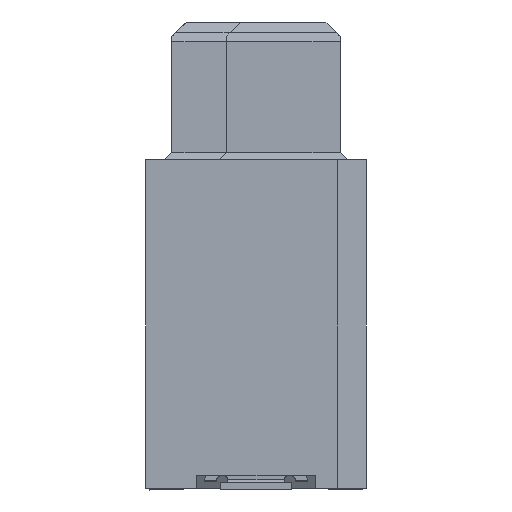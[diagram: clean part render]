
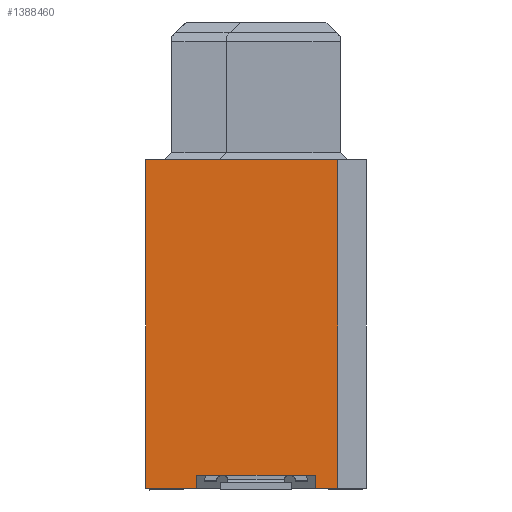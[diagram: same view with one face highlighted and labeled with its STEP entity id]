
A CAD part, left-side view. The second image highlights one B-rep face of the part: STEP entity #1388460.
In plain terms, the highlighted planar face has unit normal (-1, 0, 0) as drawn and (0, 0, 1) by its records, which use the part's own axes.
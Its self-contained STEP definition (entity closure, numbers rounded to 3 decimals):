
#1085170=CARTESIAN_POINT('',(1.425,-5.,37.31));
#1085180=DIRECTION('',(0.,1.,0.));
#1085190=VECTOR('',#1085180,1.);
#1085200=LINE('',#1085170,#1085190);
#1085210=CARTESIAN_POINT('',(1.425,-5.,37.31));
#1085220=VERTEX_POINT('',#1085210);
#1085230=CARTESIAN_POINT('',(1.425,-4.63,37.31));
#1085240=VERTEX_POINT('',#1085230);
#1085250=EDGE_CURVE('',#1085220,#1085240,#1085200,.T.);
#1386370=CARTESIAN_POINT('',(5.4,4.25,37.31));
#1386380=VERTEX_POINT('',#1386370);
#1386410=CARTESIAN_POINT('',(5.47,4.25,37.31));
#1386420=DIRECTION('',(-1.,0.,0.));
#1386430=VECTOR('',#1386420,1.);
#1386440=LINE('',#1386410,#1386430);
#1386450=CARTESIAN_POINT('',(0.,4.25,37.31));
#1386460=VERTEX_POINT('',#1386450);
#1386470=EDGE_CURVE('',#1386380,#1386460,#1386440,.T.);
#1386930=CARTESIAN_POINT('',(5.4,-5.,37.31));
#1386940=VERTEX_POINT('',#1386930);
#1386970=CARTESIAN_POINT('',(5.4,2.125,37.31));
#1386980=DIRECTION('',(0.,1.,0.));
#1386990=VECTOR('',#1386980,1.);
#1387000=LINE('',#1386970,#1386990);
#1387010=EDGE_CURVE('',#1386940,#1386380,#1387000,.T.);
#1387170=CARTESIAN_POINT('',(0.,-5.,37.31));
#1387180=VERTEX_POINT('',#1387170);
#1387210=CARTESIAN_POINT('',(5.47,-5.,37.31));
#1387220=DIRECTION('',(-1.,0.,0.));
#1387230=VECTOR('',#1387220,1.);
#1387240=LINE('',#1387210,#1387230);
#1387250=EDGE_CURVE('',#1085220,#1387180,#1387240,.T.);
#1387330=CARTESIAN_POINT('',(4.775,-5.,37.31));
#1387340=VERTEX_POINT('',#1387330);
#1387370=EDGE_CURVE('',#1386940,#1387340,#1387240,.T.);
#1388090=CARTESIAN_POINT('',(0.,-5.,37.31));
#1388100=DIRECTION('',(0.,-1.,0.));
#1388110=VECTOR('',#1388100,1.);
#1388120=LINE('',#1388090,#1388110);
#1388130=EDGE_CURVE('',#1386460,#1387180,#1388120,.T.);
#1388190=CARTESIAN_POINT('',(5.47,-0.75,37.31));
#1388200=DIRECTION('',(0.,-0.,1.));
#1388210=DIRECTION('',(0.,1.,0.));
#1388220=AXIS2_PLACEMENT_3D('',#1388190,#1388200,#1388210);
#1388230=PLANE('',#1388220);
#1388240=ORIENTED_EDGE('',*,*,#1388130,.T.);
#1388250=ORIENTED_EDGE('',*,*,#1386470,.T.);
#1388260=ORIENTED_EDGE('',*,*,#1387010,.T.);
#1388270=ORIENTED_EDGE('',*,*,#1387370,.F.);
#1388280=CARTESIAN_POINT('',(4.775,-5.,37.31));
#1388290=DIRECTION('',(0.,-1.,0.));
#1388300=VECTOR('',#1388290,1.);
#1388310=LINE('',#1388280,#1388300);
#1388320=CARTESIAN_POINT('',(4.775,-4.63,37.31));
#1388330=VERTEX_POINT('',#1388320);
#1388340=EDGE_CURVE('',#1388330,#1387340,#1388310,.T.);
#1388350=ORIENTED_EDGE('',*,*,#1388340,.T.);
#1388360=CARTESIAN_POINT('',(0.,-4.63,37.31));
#1388370=DIRECTION('',(1.,0.,0.));
#1388380=VECTOR('',#1388370,1.);
#1388390=LINE('',#1388360,#1388380);
#1388400=EDGE_CURVE('',#1085240,#1388330,#1388390,.T.);
#1388410=ORIENTED_EDGE('',*,*,#1388400,.T.);
#1388420=ORIENTED_EDGE('',*,*,#1085250,.T.);
#1388430=ORIENTED_EDGE('',*,*,#1387250,.F.);
#1388440=EDGE_LOOP('',(#1388430,#1388420,#1388410,#1388350,#1388270,
#1388260,#1388250,#1388240));
#1388450=FACE_OUTER_BOUND('',#1388440,.T.);
#1388460=ADVANCED_FACE('',(#1388450),#1388230,.T.);
